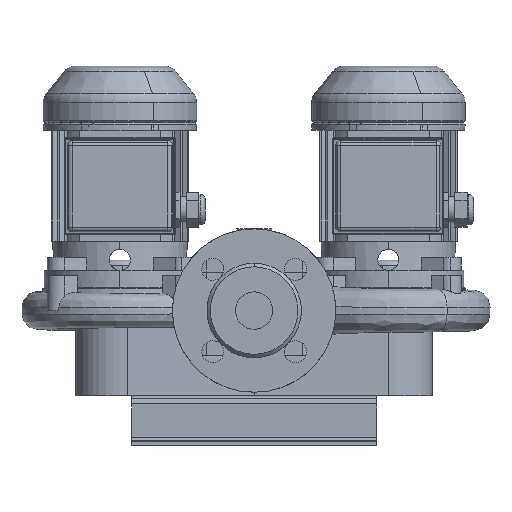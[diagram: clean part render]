
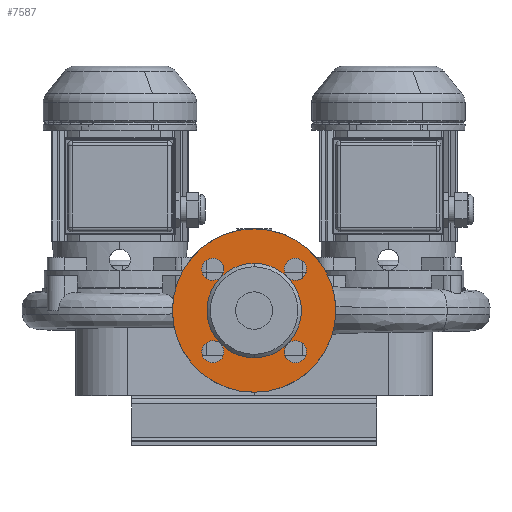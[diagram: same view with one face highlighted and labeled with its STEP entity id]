
A CAD part, front view. The second image highlights one B-rep face of the part: STEP entity #7587.
In plain terms, the highlighted planar face has unit normal (0, -1, 0) as drawn and (0, 1, 0) by its records, which use the part's own axes.
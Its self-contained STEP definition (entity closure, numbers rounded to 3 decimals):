
#7587=ADVANCED_FACE('',(#14982,#14983),#14984,.T.);
#7647=EDGE_CURVE('',#15079,#15080,#15081,.T.);
#7649=EDGE_CURVE('',#15083,#15079,#15084,.T.);
#7651=EDGE_CURVE('',#15086,#15083,#15087,.T.);
#7655=EDGE_CURVE('',#15093,#15094,#15095,.T.);
#7659=EDGE_CURVE('',#15101,#15102,#15103,.T.);
#7663=EDGE_CURVE('',#15109,#15110,#15111,.T.);
#7667=EDGE_CURVE('',#15117,#15118,#15119,.T.);
#7671=EDGE_CURVE('',#15125,#15126,#15127,.T.);
#7867=EDGE_CURVE('',#15126,#15125,#15422,.T.);
#7871=EDGE_CURVE('',#15083,#15117,#15426,.T.);
#7873=EDGE_CURVE('',#15118,#15083,#15428,.T.);
#7875=EDGE_CURVE('',#15079,#15109,#15430,.T.);
#7877=EDGE_CURVE('',#15110,#15079,#15432,.T.);
#7879=EDGE_CURVE('',#15434,#15101,#15435,.T.);
#7881=EDGE_CURVE('',#15102,#15434,#15437,.T.);
#7883=EDGE_CURVE('',#15439,#15093,#15440,.T.);
#7885=EDGE_CURVE('',#15094,#15439,#15442,.T.);
#7887=EDGE_CURVE('',#15080,#15434,#15444,.T.);
#7889=EDGE_CURVE('',#15434,#15439,#15446,.T.);
#7891=EDGE_CURVE('',#15439,#15086,#15448,.T.);
#14982=FACE_OUTER_BOUND('',#27380,.T.);
#14983=FACE_BOUND('',#27381,.T.);
#14984=PLANE('',#27382);
#15079=VERTEX_POINT('',#28285);
#15080=VERTEX_POINT('',#28286);
#15081=CIRCLE('',#28287,40.5);
#15083=VERTEX_POINT('',#28290);
#15084=CIRCLE('',#28291,40.5);
#15086=VERTEX_POINT('',#28294);
#15087=CIRCLE('',#28295,40.5);
#15093=VERTEX_POINT('',#28303);
#15094=VERTEX_POINT('',#28304);
#15095=CIRCLE('',#28305,9.5);
#15101=VERTEX_POINT('',#28313);
#15102=VERTEX_POINT('',#28314);
#15103=CIRCLE('',#28315,9.5);
#15109=VERTEX_POINT('',#28323);
#15110=VERTEX_POINT('',#28324);
#15111=CIRCLE('',#28325,9.5);
#15117=VERTEX_POINT('',#28333);
#15118=VERTEX_POINT('',#28334);
#15119=CIRCLE('',#28335,9.5);
#15125=VERTEX_POINT('',#28343);
#15126=VERTEX_POINT('',#28344);
#15127=CIRCLE('',#28345,70.0);
#15422=CIRCLE('',#28847,70.0);
#15426=CIRCLE('',#28853,9.5);
#15428=CIRCLE('',#28856,9.5);
#15430=CIRCLE('',#28859,9.5);
#15432=CIRCLE('',#28862,9.5);
#15434=VERTEX_POINT('',#28865);
#15435=CIRCLE('',#28866,9.5);
#15437=CIRCLE('',#28869,9.5);
#15439=VERTEX_POINT('',#28872);
#15440=CIRCLE('',#28873,9.5);
#15442=CIRCLE('',#28876,9.5);
#15444=CIRCLE('',#28879,40.5);
#15446=CIRCLE('',#28882,40.5);
#15448=CIRCLE('',#28885,40.5);
#27380=EDGE_LOOP('',(#40542,#40543));
#27381=EDGE_LOOP('',(#40544,#40545,#40546,#40547,#40548,#40549,#40550,#40551,#40552,#40553,#40554,#40555,#40556,#40557,#40558,#40559,#40560,#40561));
#27382=AXIS2_PLACEMENT_3D('',#40562,#40563,#40564);
#28285=CARTESIAN_POINT('',(28.638,107.0,28.638));
#28286=CARTESIAN_POINT('',(0.,107.0,40.5));
#28287=AXIS2_PLACEMENT_3D('',#40807,#40808,#40809);
#28290=CARTESIAN_POINT('',(28.638,107.0,-28.638));
#28291=AXIS2_PLACEMENT_3D('',#40810,#40811,#40812);
#28294=CARTESIAN_POINT('',(0.,107.0,-40.5));
#28295=AXIS2_PLACEMENT_3D('',#40813,#40814,#40815);
#28303=CARTESIAN_POINT('',(-40.714,107.0,-27.511));
#28304=CARTESIAN_POINT('',(-29.996,107.0,-43.2));
#28305=AXIS2_PLACEMENT_3D('',#40819,#40820,#40821);
#28313=CARTESIAN_POINT('',(-27.511,107.,40.714));
#28314=CARTESIAN_POINT('',(-43.2,107.,29.996));
#28315=AXIS2_PLACEMENT_3D('',#40825,#40826,#40827);
#28323=CARTESIAN_POINT('',(40.714,107.,27.511));
#28324=CARTESIAN_POINT('',(29.996,107.,43.2));
#28325=AXIS2_PLACEMENT_3D('',#40831,#40832,#40833);
#28333=CARTESIAN_POINT('',(27.511,107.0,-40.714));
#28334=CARTESIAN_POINT('',(43.2,107.0,-29.996));
#28335=AXIS2_PLACEMENT_3D('',#40837,#40838,#40839);
#28343=CARTESIAN_POINT('',(0.,107.0,-70.0));
#28344=CARTESIAN_POINT('',(0.,107.0,70.0));
#28345=AXIS2_PLACEMENT_3D('',#40843,#40844,#40845);
#28847=AXIS2_PLACEMENT_3D('',#41073,#41074,#41075);
#28853=AXIS2_PLACEMENT_3D('',#41079,#41080,#41081);
#28856=AXIS2_PLACEMENT_3D('',#41082,#41083,#41084);
#28859=AXIS2_PLACEMENT_3D('',#41085,#41086,#41087);
#28862=AXIS2_PLACEMENT_3D('',#41088,#41089,#41090);
#28865=CARTESIAN_POINT('',(-28.638,107.0,28.638));
#28866=AXIS2_PLACEMENT_3D('',#41091,#41092,#41093);
#28869=AXIS2_PLACEMENT_3D('',#41094,#41095,#41096);
#28872=CARTESIAN_POINT('',(-28.638,107.0,-28.638));
#28873=AXIS2_PLACEMENT_3D('',#41097,#41098,#41099);
#28876=AXIS2_PLACEMENT_3D('',#41100,#41101,#41102);
#28879=AXIS2_PLACEMENT_3D('',#41103,#41104,#41105);
#28882=AXIS2_PLACEMENT_3D('',#41106,#41107,#41108);
#28885=AXIS2_PLACEMENT_3D('',#41109,#41110,#41111);
#40542=ORIENTED_EDGE('',*,*,#7867,.F.);
#40543=ORIENTED_EDGE('',*,*,#7671,.F.);
#40544=ORIENTED_EDGE('',*,*,#7647,.T.);
#40545=ORIENTED_EDGE('',*,*,#7887,.T.);
#40546=ORIENTED_EDGE('',*,*,#7879,.T.);
#40547=ORIENTED_EDGE('',*,*,#7659,.T.);
#40548=ORIENTED_EDGE('',*,*,#7881,.T.);
#40549=ORIENTED_EDGE('',*,*,#7889,.T.);
#40550=ORIENTED_EDGE('',*,*,#7883,.T.);
#40551=ORIENTED_EDGE('',*,*,#7655,.T.);
#40552=ORIENTED_EDGE('',*,*,#7885,.T.);
#40553=ORIENTED_EDGE('',*,*,#7891,.T.);
#40554=ORIENTED_EDGE('',*,*,#7651,.T.);
#40555=ORIENTED_EDGE('',*,*,#7871,.T.);
#40556=ORIENTED_EDGE('',*,*,#7667,.T.);
#40557=ORIENTED_EDGE('',*,*,#7873,.T.);
#40558=ORIENTED_EDGE('',*,*,#7649,.T.);
#40559=ORIENTED_EDGE('',*,*,#7875,.T.);
#40560=ORIENTED_EDGE('',*,*,#7663,.T.);
#40561=ORIENTED_EDGE('',*,*,#7877,.T.);
#40562=CARTESIAN_POINT('',(0.,107.0,-55.25));
#40563=DIRECTION('',(0.0,1.0,0.0));
#40564=DIRECTION('',(0.0,0.0,1.0));
#40807=CARTESIAN_POINT('',(0.,107.0,0.));
#40808=DIRECTION('',(0.0,-1.0,0.0));
#40809=DIRECTION('',(0.0,0.0,-1.0));
#40810=CARTESIAN_POINT('',(0.,107.0,0.));
#40811=DIRECTION('',(0.0,-1.0,0.0));
#40812=DIRECTION('',(0.0,0.0,-1.0));
#40813=CARTESIAN_POINT('',(0.,107.0,0.));
#40814=DIRECTION('',(0.0,-1.0,0.0));
#40815=DIRECTION('',(0.0,0.0,-1.0));
#40819=CARTESIAN_POINT('',(-35.355,107.0,-35.355));
#40820=DIRECTION('',(0.0,-1.0,0.0));
#40821=DIRECTION('',(-0.564,0.0,0.826));
#40825=CARTESIAN_POINT('',(-35.355,107.,35.355));
#40826=DIRECTION('',(0.0,-1.0,0.0));
#40827=DIRECTION('',(0.826,0.0,0.564));
#40831=CARTESIAN_POINT('',(35.355,107.,35.355));
#40832=DIRECTION('',(0.0,-1.0,0.0));
#40833=DIRECTION('',(0.564,0.0,-0.826));
#40837=CARTESIAN_POINT('',(35.355,107.0,-35.355));
#40838=DIRECTION('',(0.0,-1.0,-0.0));
#40839=DIRECTION('',(-0.826,0.0,-0.564));
#40843=CARTESIAN_POINT('',(0.,107.0,0.));
#40844=DIRECTION('',(0.0,-1.0,0.0));
#40845=DIRECTION('',(0.0,0.0,-1.0));
#41073=CARTESIAN_POINT('',(0.,107.0,0.));
#41074=DIRECTION('',(0.0,-1.0,0.0));
#41075=DIRECTION('',(0.0,0.0,-1.0));
#41079=CARTESIAN_POINT('',(35.355,107.0,-35.355));
#41080=DIRECTION('',(0.0,-1.0,-0.0));
#41081=DIRECTION('',(-0.826,0.0,-0.564));
#41082=CARTESIAN_POINT('',(35.355,107.0,-35.355));
#41083=DIRECTION('',(0.0,-1.0,-0.0));
#41084=DIRECTION('',(-0.826,0.0,-0.564));
#41085=CARTESIAN_POINT('',(35.355,107.,35.355));
#41086=DIRECTION('',(0.0,-1.0,0.0));
#41087=DIRECTION('',(0.564,0.0,-0.826));
#41088=CARTESIAN_POINT('',(35.355,107.,35.355));
#41089=DIRECTION('',(0.0,-1.0,0.0));
#41090=DIRECTION('',(0.564,0.0,-0.826));
#41091=CARTESIAN_POINT('',(-35.355,107.,35.355));
#41092=DIRECTION('',(0.0,-1.0,0.0));
#41093=DIRECTION('',(0.826,0.0,0.564));
#41094=CARTESIAN_POINT('',(-35.355,107.,35.355));
#41095=DIRECTION('',(0.0,-1.0,0.0));
#41096=DIRECTION('',(0.826,0.0,0.564));
#41097=CARTESIAN_POINT('',(-35.355,107.0,-35.355));
#41098=DIRECTION('',(0.0,-1.0,0.0));
#41099=DIRECTION('',(-0.564,0.0,0.826));
#41100=CARTESIAN_POINT('',(-35.355,107.0,-35.355));
#41101=DIRECTION('',(0.0,-1.0,0.0));
#41102=DIRECTION('',(-0.564,0.0,0.826));
#41103=CARTESIAN_POINT('',(0.,107.0,0.));
#41104=DIRECTION('',(0.0,-1.0,0.0));
#41105=DIRECTION('',(0.0,0.0,-1.0));
#41106=CARTESIAN_POINT('',(0.,107.0,0.));
#41107=DIRECTION('',(0.0,-1.0,0.0));
#41108=DIRECTION('',(0.0,0.0,-1.0));
#41109=CARTESIAN_POINT('',(0.,107.0,0.));
#41110=DIRECTION('',(0.0,-1.0,0.0));
#41111=DIRECTION('',(0.0,0.0,-1.0));
